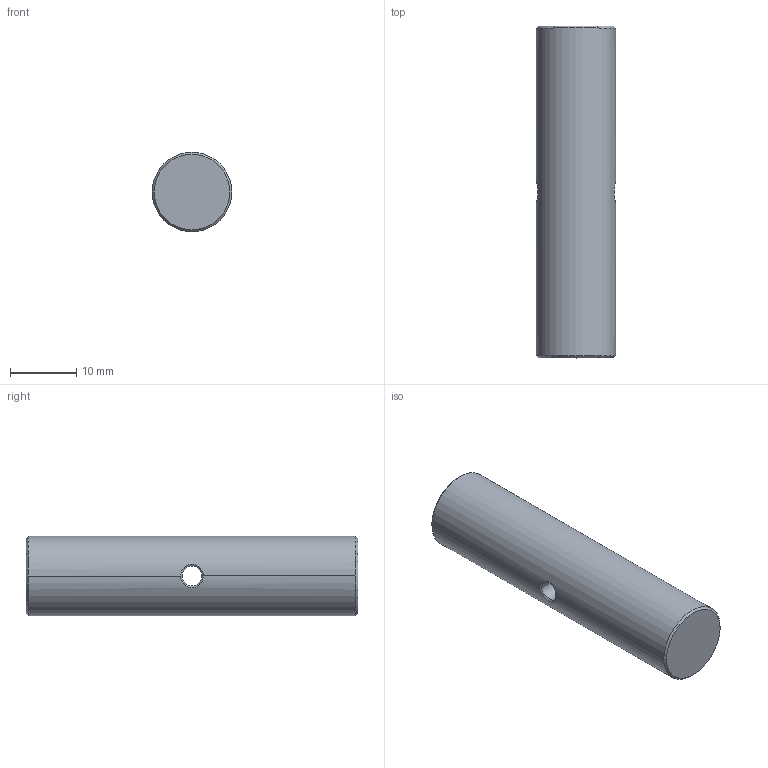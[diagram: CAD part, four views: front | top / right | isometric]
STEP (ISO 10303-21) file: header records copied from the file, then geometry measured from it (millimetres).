
FILE_DESCRIPTION((''),'2;1');
FILE_NAME('PCA50-M4','2020-12-11T',('Administrator'),(''),'CREO PARAMETRIC BY PTC INC, 2015290','CREO PARAMETRIC BY PTC INC, 2015290','');
FILE_SCHEMA(('CONFIG_CONTROL_DESIGN'));
Length unit declared in the file: millimetre
Products named in the file (1): PCA50-M4
Bounding box: 12 x 50 x 12 mm (x, y, z)
Volume: 5488.2 mm3; surface area: 2321 mm2
Topology: 1 solids, 1 shells, 47 faces, 123 edges, 75 vertices
Faces by surface type: cylinder 23, bspline 14, cone 8, plane 2
Entity records: 3442 total; most frequent: CARTESIAN_POINT 2416, ORIENTED_EDGE 242, DIRECTION 139, EDGE_CURVE 121, VERTEX_POINT 75, B_SPLINE_CURVE_WITH_KNOTS 62, EDGE_LOOP 48, AXIS2_PLACEMENT_3D 47
